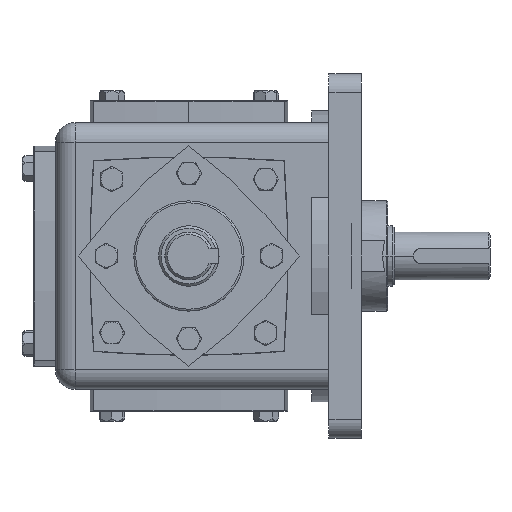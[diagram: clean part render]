
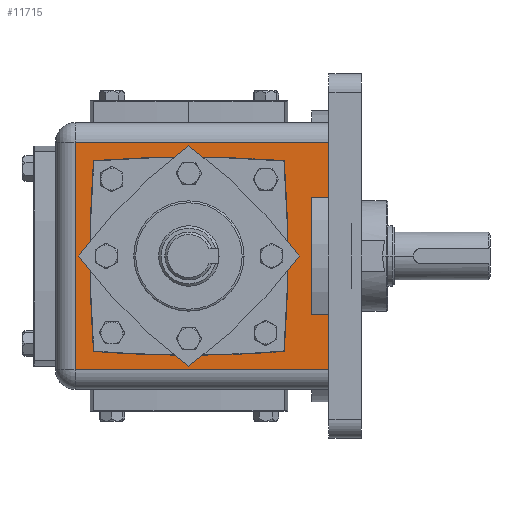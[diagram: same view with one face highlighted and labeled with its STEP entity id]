
A CAD part, left-side view. The second image highlights one B-rep face of the part: STEP entity #11715.
In plain terms, the highlighted planar face has unit normal (-1, 0, 0).
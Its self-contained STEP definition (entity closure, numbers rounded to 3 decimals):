
#66 = EDGE_CURVE ( 'NONE', #1930, #5017, #15001, .T. ) ;
#102 = EDGE_CURVE ( 'NONE', #9838, #15536, #14830, .T. ) ;
#125 = CARTESIAN_POINT ( 'NONE',  ( -69.6, -73., 59.315 ) ) ;
#483 = EDGE_CURVE ( 'NONE', #15536, #10655, #12394, .T. ) ;
#917 = EDGE_CURVE ( 'NONE', #17965, #10655, #10289, .T. ) ;
#1038 = EDGE_CURVE ( 'NONE', #17965, #18963, #10018, .T. ) ;
#1091 = EDGE_CURVE ( 'NONE', #18963, #11259, #9361, .T. ) ;
#1295 = EDGE_CURVE ( 'NONE', #11259, #17639, #8659, .T. ) ;
#1307 = CARTESIAN_POINT ( 'NONE',  ( -69.6, -73., -59.315 ) ) ;
#1490 = EDGE_CURVE ( 'NONE', #17639, #13245, #8451, .T. ) ;
#1579 = EDGE_CURVE ( 'NONE', #13245, #9838, #7744, .T. ) ;
#1634 = FACE_OUTER_BOUND ( 'NONE', #19066, .T. ) ;
#1900 = FACE_BOUND ( 'NONE', #15079, .T. ) ;
#1907 = CIRCLE ( 'NONE', #8711, 619.766 ) ;
#1930 = VERTEX_POINT ( 'NONE', #3042 ) ;
#2041 = DIRECTION ( 'NONE',  ( 0., 0., 1. ) ) ;
#2151 = DIRECTION ( 'NONE',  ( 1., 0., 0. ) ) ;
#2453 = CARTESIAN_POINT ( 'NONE',  ( -69.6, -49.75, -49.75 ) ) ;
#2486 = CARTESIAN_POINT ( 'NONE',  ( -69.6, 0., -51.75 ) ) ;
#2527 = DIRECTION ( 'NONE',  ( 1., 0., 0. ) ) ;
#2752 = EDGE_CURVE ( 'NONE', #10179, #16883, #1907, .T. ) ;
#2888 = DIRECTION ( 'NONE',  ( 0., 0., 1. ) ) ;
#2966 = CARTESIAN_POINT ( 'NONE',  ( -69.6, -73., -69.6 ) ) ;
#3042 = CARTESIAN_POINT ( 'NONE',  ( -69.6, 49.75, 49.75 ) ) ;
#3360 = AXIS2_PLACEMENT_3D ( 'NONE', #12593, #2151, #14343 ) ;
#4665 = CARTESIAN_POINT ( 'NONE',  ( -69.6, 59.315, 59.315 ) ) ;
#4671 = CARTESIAN_POINT ( 'NONE',  ( -69.6, -73., -69.6 ) ) ;
#5008 = EDGE_CURVE ( 'NONE', #17466, #1930, #15836, .T. ) ;
#5017 = VERTEX_POINT ( 'NONE', #21308 ) ;
#5637 = CARTESIAN_POINT ( 'NONE',  ( -69.6, -64., 30.526 ) ) ;
#6650 = CARTESIAN_POINT ( 'NONE',  ( -69.6, -73., -30.526 ) ) ;
#6756 = AXIS2_PLACEMENT_3D ( 'NONE', #7000, #6931, #6857 ) ;
#6857 = DIRECTION ( 'NONE',  ( 0., 0., 1. ) ) ;
#6925 = CARTESIAN_POINT ( 'NONE',  ( -69.6, -64., -69.6 ) ) ;
#6931 = DIRECTION ( 'NONE',  ( 1., 0., 0. ) ) ;
#7000 = CARTESIAN_POINT ( 'NONE',  ( -69.6, 0., -568.016 ) ) ;
#7102 = CARTESIAN_POINT ( 'NONE',  ( -69.6, -73., -69.6 ) ) ;
#7140 = DIRECTION ( 'NONE',  ( 0., 0., -1. ) ) ;
#7178 = VECTOR ( 'NONE', #16949, 1000. ) ;
#7306 = EDGE_CURVE ( 'NONE', #5017, #10179, #7675, .T. ) ;
#7675 = CIRCLE ( 'NONE', #3360, 619.766 ) ;
#7744 = LINE ( 'NONE', #17014, #7178 ) ;
#7883 = VECTOR ( 'NONE', #16185, 1000. ) ;
#8057 = DIRECTION ( 'NONE',  ( 1., 0., 0. ) ) ;
#8254 = AXIS2_PLACEMENT_3D ( 'NONE', #18500, #8057, #20128 ) ;
#8451 = LINE ( 'NONE', #14765, #7883 ) ;
#8601 = VECTOR ( 'NONE', #18139, 1000. ) ;
#8659 = LINE ( 'NONE', #19513, #8601 ) ;
#8711 = AXIS2_PLACEMENT_3D ( 'NONE', #11150, #11132, #11127 ) ;
#8887 = PLANE ( 'NONE',  #16545 ) ;
#9237 = VECTOR ( 'NONE', #2888, 1000. ) ;
#9361 = LINE ( 'NONE', #2966, #9237 ) ;
#9751 = DIRECTION ( 'NONE',  ( 0., -1., 0. ) ) ;
#9788 = VECTOR ( 'NONE', #9751, 1000. ) ;
#9838 = VERTEX_POINT ( 'NONE', #1307 ) ;
#9977 = CARTESIAN_POINT ( 'NONE',  ( -69.6, -64., 30.526 ) ) ;
#10018 = LINE ( 'NONE', #9977, #9788 ) ;
#10179 = VERTEX_POINT ( 'NONE', #2453 ) ;
#10289 = LINE ( 'NONE', #6925, #10327 ) ;
#10327 = VECTOR ( 'NONE', #7140, 1000. ) ;
#10655 = VERTEX_POINT ( 'NONE', #11051 ) ;
#11051 = CARTESIAN_POINT ( 'NONE',  ( -69.6, -64., -30.526 ) ) ;
#11127 = DIRECTION ( 'NONE',  ( 0., 0., 1. ) ) ;
#11132 = DIRECTION ( 'NONE',  ( 1., 0., 0. ) ) ;
#11150 = CARTESIAN_POINT ( 'NONE',  ( -69.6, 0., 568.016 ) ) ;
#11259 = VERTEX_POINT ( 'NONE', #125 ) ;
#11462 = ORIENTED_EDGE ( 'NONE', *, *, #7306, .T. ) ;
#11489 = ORIENTED_EDGE ( 'NONE', *, *, #2752, .T. ) ;
#11517 = CARTESIAN_POINT ( 'NONE',  ( -69.6, 49.75, -49.75 ) ) ;
#11692 = ORIENTED_EDGE ( 'NONE', *, *, #13136, .T. ) ;
#11715 = ADVANCED_FACE ( 'NONE', ( #1900, #1634 ), #8887, .T. ) ;
#12052 = ORIENTED_EDGE ( 'NONE', *, *, #5008, .T. ) ;
#12117 = ORIENTED_EDGE ( 'NONE', *, *, #66, .T. ) ;
#12242 = ORIENTED_EDGE ( 'NONE', *, *, #102, .T. ) ;
#12394 = LINE ( 'NONE', #17469, #12456 ) ;
#12452 = ORIENTED_EDGE ( 'NONE', *, *, #483, .T. ) ;
#12456 = VECTOR ( 'NONE', #12781, 1000. ) ;
#12593 = CARTESIAN_POINT ( 'NONE',  ( -69.6, 568.016, 0. ) ) ;
#12777 = ORIENTED_EDGE ( 'NONE', *, *, #917, .F. ) ;
#12781 = DIRECTION ( 'NONE',  ( 0., 1., 0. ) ) ;
#12956 = CARTESIAN_POINT ( 'NONE',  ( -69.6, -568.016, 0. ) ) ;
#13039 = ORIENTED_EDGE ( 'NONE', *, *, #1038, .T. ) ;
#13136 = EDGE_CURVE ( 'NONE', #16883, #17466, #14266, .T. ) ;
#13245 = VERTEX_POINT ( 'NONE', #13746 ) ;
#13257 = ORIENTED_EDGE ( 'NONE', *, *, #1091, .T. ) ;
#13457 = ORIENTED_EDGE ( 'NONE', *, *, #1295, .T. ) ;
#13600 = ORIENTED_EDGE ( 'NONE', *, *, #1490, .T. ) ;
#13619 = ORIENTED_EDGE ( 'NONE', *, *, #1579, .T. ) ;
#13746 = CARTESIAN_POINT ( 'NONE',  ( -69.6, 59.315, -59.315 ) ) ;
#14174 = DIRECTION ( 'NONE',  ( -1., 0., 0. ) ) ;
#14266 = CIRCLE ( 'NONE', #8254, 619.766 ) ;
#14343 = DIRECTION ( 'NONE',  ( 0., 0., 1. ) ) ;
#14593 = AXIS2_PLACEMENT_3D ( 'NONE', #12956, #2527, #14721 ) ;
#14663 = VECTOR ( 'NONE', #2041, 1000. ) ;
#14721 = DIRECTION ( 'NONE',  ( 0., 0., 1. ) ) ;
#14765 = CARTESIAN_POINT ( 'NONE',  ( -69.6, 59.315, -69.6 ) ) ;
#14830 = LINE ( 'NONE', #4671, #14663 ) ;
#15001 = CIRCLE ( 'NONE', #6756, 619.766 ) ;
#15079 = EDGE_LOOP ( 'NONE', ( #11462, #11489, #11692, #12052, #12117 ) ) ;
#15536 = VERTEX_POINT ( 'NONE', #6650 ) ;
#15836 = CIRCLE ( 'NONE', #14593, 619.766 ) ;
#15881 = CARTESIAN_POINT ( 'NONE',  ( -69.6, -73., 30.526 ) ) ;
#16185 = DIRECTION ( 'NONE',  ( 0., 0., -1. ) ) ;
#16545 = AXIS2_PLACEMENT_3D ( 'NONE', #7102, #14174, #20878 ) ;
#16883 = VERTEX_POINT ( 'NONE', #2486 ) ;
#16949 = DIRECTION ( 'NONE',  ( 0., -1., 0. ) ) ;
#17014 = CARTESIAN_POINT ( 'NONE',  ( -69.6, -73., -59.315 ) ) ;
#17466 = VERTEX_POINT ( 'NONE', #11517 ) ;
#17469 = CARTESIAN_POINT ( 'NONE',  ( -69.6, -64., -30.526 ) ) ;
#17639 = VERTEX_POINT ( 'NONE', #4665 ) ;
#17965 = VERTEX_POINT ( 'NONE', #5637 ) ;
#18139 = DIRECTION ( 'NONE',  ( 0., 1., 0. ) ) ;
#18500 = CARTESIAN_POINT ( 'NONE',  ( -69.6, 0., 568.016 ) ) ;
#18963 = VERTEX_POINT ( 'NONE', #15881 ) ;
#19066 = EDGE_LOOP ( 'NONE', ( #12242, #12452, #12777, #13039, #13257, #13457, #13600, #13619 ) ) ;
#19513 = CARTESIAN_POINT ( 'NONE',  ( -69.6, -73., 59.315 ) ) ;
#20128 = DIRECTION ( 'NONE',  ( 0., 0., 1. ) ) ;
#20878 = DIRECTION ( 'NONE',  ( 0., 0., 1. ) ) ;
#21308 = CARTESIAN_POINT ( 'NONE',  ( -69.6, -49.75, 49.75 ) ) ;
